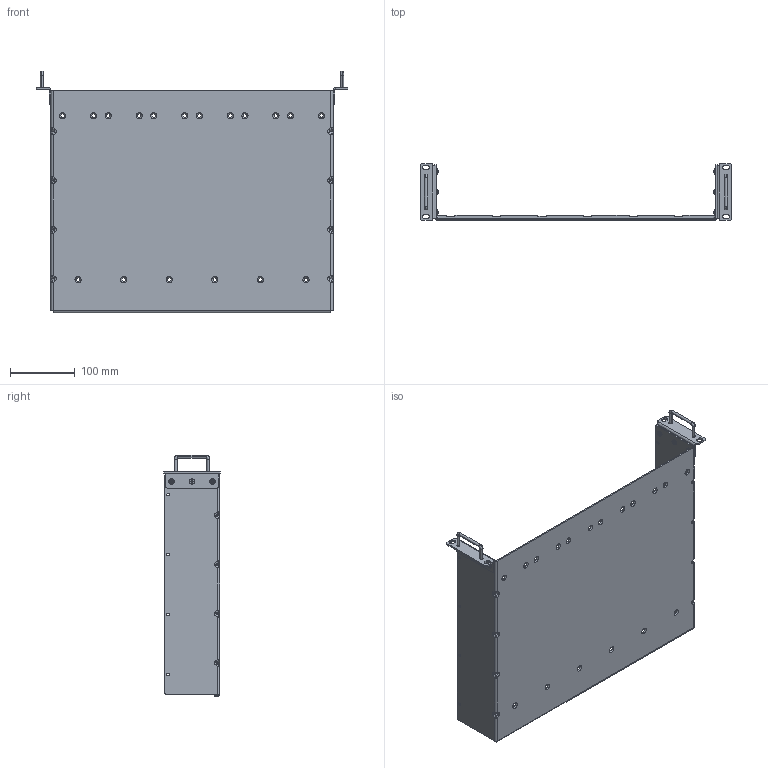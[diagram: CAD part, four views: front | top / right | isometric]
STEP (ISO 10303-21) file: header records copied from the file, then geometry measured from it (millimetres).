
FILE_DESCRIPTION((''),'2;1');
FILE_NAME('CU_RMX410X_SHELF-SW','2018-01-22T',('gvillanu'),(''),'CREO PARAMETRIC BY PTC INC, 2015380','CREO PARAMETRIC BY PTC INC, 2015380','');
FILE_SCHEMA(('CONFIG_CONTROL_DESIGN'));
Length unit declared in the file: inch
Products named in the file (1): CU_RMX410X_SHELF-SW
Bounding box: 482.6 x 87.88 x 373.96 mm (x, y, z)
Volume: 438418.3 mm3; surface area: 434125.3 mm2
Topology: 1 solids, 1 shells, 816 faces, 2014 edges, 1054 vertices
Faces by surface type: cylinder 284, bspline 232, plane 176, cone 84, sphere 32, torus 8
Entity records: 30646 total; most frequent: CARTESIAN_POINT 13138, ORIENTED_EDGE 3628, DIRECTION 3358, EDGE_CURVE 1814, VERTEX_POINT 1244, AXIS2_PLACEMENT_3D 1224, EDGE_LOOP 934, VECTOR 910
